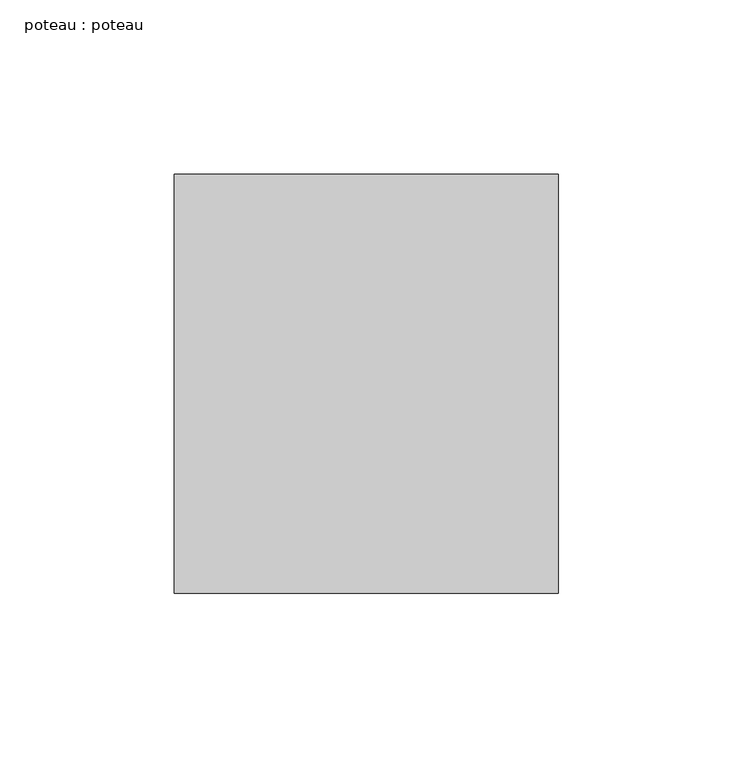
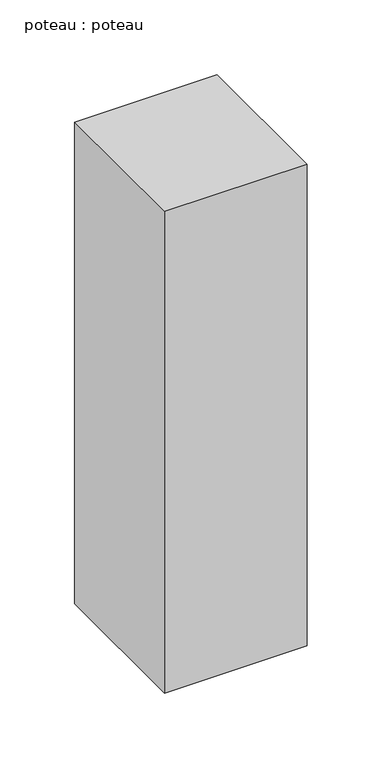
"""IFC4 building model written with IfcOpenShell, lengths in millimetres: column geometry, poteau : poteau."""

import ifcopenshell
import ifcopenshell.guid

model = None  # the IFC model being written
_history = None  # IfcOwnerHistory: only IFC2X3 demands one
_inside = {}  # id of a spatial element -> (the spatial element, [elements in it])
_under = {}  # id of a project, library or spatial element -> (it, [spatial elements below it])
_declared = {}  # id of a project -> (the project, [libraries it declares])
_typed = {}  # id of a type object -> (the type object, [elements of that type])
_made_of = {}  # id of a material, layer set ... -> (it, [elements and type objects made of it])


def new_model(schema):
    """Start an empty IFC model of exactly this schema.

    Asked for "IFC4X3", IfcOpenShell would pick the latest addendum, in which some entities
    have other attributes; the version numbers below select the first issue.
    IFC2X3 requires an IfcOwnerHistory on every rooted entity: one is made here for all.
    """
    global model, _history
    if schema == "IFC4X3":
        model = ifcopenshell.file(schema_version=(4, 3, 0, 0))
    else:
        model = ifcopenshell.file(schema=schema)
    _inside.clear()
    _under.clear()
    _declared.clear()
    _typed.clear()
    _made_of.clear()
    _history = None
    if model.schema == "IFC2X3":
        org = make("IfcOrganization", Name="unknown")
        user = make(
            "IfcPersonAndOrganization",
            ThePerson=make("IfcPerson", FamilyName="unknown"),
            TheOrganization=org,
        )
        app = make(
            "IfcApplication",
            ApplicationDeveloper=org,
            Version="unknown",
            ApplicationFullName="unknown",
            ApplicationIdentifier="unknown",
        )
        _history = make(
            "IfcOwnerHistory",
            OwningUser=user,
            OwningApplication=app,
            ChangeAction="ADDED",
            CreationDate=0,
        )
    return model


def make(cls, **values):
    """One entity of the class cls with the attributes given. An attribute that is None is left unset."""
    return model.create_entity(
        cls, **{name: value for name, value in values.items() if value is not None}
    )


def rooted(cls, **values):
    """An entity with a GlobalId (a new one), such as an element, a storey or a relation."""
    return make(cls, GlobalId=ifcopenshell.guid.new(), OwnerHistory=_history, **values)


def si_unit(unit_type, name, prefix=None):
    """IfcSIUnit, for example si_unit("LENGTHUNIT", "METRE", prefix="MILLI")."""
    return make("IfcSIUnit", UnitType=unit_type, Prefix=prefix, Name=name)


def assignment(units):
    """IfcUnitAssignment: the units of a project."""
    return None if units is None else make("IfcUnitAssignment", Units=units)


def point(xyz):
    """IfcCartesianPoint."""
    return None if xyz is None else make("IfcCartesianPoint", Coordinates=xyz)


def direction(xyz):
    """IfcDirection."""
    return None if xyz is None else make("IfcDirection", DirectionRatios=xyz)


def frame(location, z_axis=None, x_axis=None):
    """IfcAxis2Placement3D, a coordinate frame: its origin and axes. An axis left out is left unset."""
    return make(
        "IfcAxis2Placement3D",
        Location=point(location),
        Axis=direction(z_axis),
        RefDirection=direction(x_axis),
    )


def origin():
    """The frame at (0, 0, 0) with its axes left unset."""
    return frame((0.0, 0.0, 0.0))


def place(relative_to, where):
    """IfcLocalPlacement: puts the frame where relative to a parent placement (None: the world)."""
    return make(
        "IfcLocalPlacement", PlacementRelTo=relative_to, RelativePlacement=where
    )


def context(
    kind, dimensions, precision=None, world=None, true_north=None, identifier=None
):
    """IfcGeometricRepresentationContext, for example the 3D "Model" context."""
    return make(
        "IfcGeometricRepresentationContext",
        ContextIdentifier=identifier,
        ContextType=kind,
        CoordinateSpaceDimension=dimensions,
        Precision=precision,
        WorldCoordinateSystem=world,
        TrueNorth=true_north,
    )


def project(units=None, contexts=None):
    """IfcProject with its units and contexts."""
    return rooted(
        "IfcProject",
        Name="project",
        RepresentationContexts=contexts,
        UnitsInContext=assignment(units),
    )


def spatial(cls, under=None, at=None, **own):
    """A site, building, storey or space (cls), placed at a placement, below another one or the project."""
    s = rooted(cls, ObjectPlacement=at, **own)
    if under is not None:
        _under.setdefault(under.id(), (under, []))[1].append(s)
    return s


def polyline(points):
    """IfcPolyline through the points."""
    return make("IfcPolyline", Points=[point(p) for p in points])


def outline(outer, holes=None, kind="AREA"):
    """IfcArbitraryClosedProfileDef: a profile drawn as a closed curve; with holes, ...WithVoids."""
    if holes is None:
        return make("IfcArbitraryClosedProfileDef", ProfileType=kind, OuterCurve=outer)
    return make(
        "IfcArbitraryProfileDefWithVoids",
        ProfileType=kind,
        OuterCurve=outer,
        InnerCurves=holes,
    )


def extrude(swept, where, along, depth):
    """IfcExtrudedAreaSolid: the profile swept, set in the frame where, extruded along a direction by depth."""
    return make(
        "IfcExtrudedAreaSolid",
        SweptArea=swept,
        Position=where,
        ExtrudedDirection=direction(along),
        Depth=depth,
    )


def shape(context_of_items, identifier, shape_type, items):
    """IfcShapeRepresentation: the items that make up one representation, for example the "Body"."""
    return make(
        "IfcShapeRepresentation",
        ContextOfItems=context_of_items,
        RepresentationIdentifier=identifier,
        RepresentationType=shape_type,
        Items=items,
    )


def source(mapping_origin, context_of_items, identifier, shape_type, items):
    """IfcRepresentationMap: a shape defined once, which mapped items show again and again."""
    return make(
        "IfcRepresentationMap",
        MappingOrigin=mapping_origin,
        MappedRepresentation=shape(context_of_items, identifier, shape_type, items),
    )


def transform(
    local_origin,
    x_axis=None,
    y_axis=None,
    z_axis=None,
    scale=None,
    scale2=None,
    scale3=None,
    uniform=True,
):
    """IfcCartesianTransformationOperator3D, or its non-uniform kind. x_axis, y_axis, z_axis: its Axis1, 2, 3."""
    if uniform:
        return make(
            "IfcCartesianTransformationOperator3D",
            Axis1=direction(x_axis),
            Axis2=direction(y_axis),
            LocalOrigin=point(local_origin),
            Scale=scale,
            Axis3=direction(z_axis),
        )
    return make(
        "IfcCartesianTransformationOperator3DnonUniform",
        Axis1=direction(x_axis),
        Axis2=direction(y_axis),
        LocalOrigin=point(local_origin),
        Scale=scale,
        Axis3=direction(z_axis),
        Scale2=scale2,
        Scale3=scale3,
    )


def mapped(mapping_source, mapping_target):
    """IfcMappedItem: shows the shape of a source again, moved by a transform."""
    return make(
        "IfcMappedItem", MappingSource=mapping_source, MappingTarget=mapping_target
    )


def made_of(thing, what):
    """Note that an element or type object is made of a material, layer set ...; save() writes the relation."""
    if what is not None:
        _made_of.setdefault(what.id(), (what, []))[1].append(thing)
    return thing


def element(
    cls,
    number,
    at=None,
    inside=None,
    cuts=None,
    type_object=None,
    material=None,
    context=None,
    identifier="Body",
    shape_type=None,
    held_by="IfcProductDefinitionShape",
    body=None,
    shapes=None,
    **own,
):
    """One element of the class cls, such as IfcWall. Its Tag is "e" and its number.

    at: its placement. inside: the storey or other place that contains it. cuts: it is an
    opening in that element (IfcRelVoidsElement). A single representation is given by context,
    identifier, shape_type and body (its items); several are given by shapes. held_by: the class
    of the entity that holds the representations. save() writes the other relations.
    """
    e = rooted(cls, Tag="e%d" % number, ObjectPlacement=at, **own)
    if body is not None:
        shapes = [shape(context, identifier, shape_type, body)]
    if shapes is not None:
        e.Representation = make(held_by, Representations=shapes)
    if inside is not None:
        _inside.setdefault(inside.id(), (inside, []))[1].append(e)
    if cuts is not None:
        rooted(
            "IfcRelVoidsElement", RelatingBuildingElement=cuts, RelatedOpeningElement=e
        )
    if type_object is not None:
        _typed.setdefault(type_object.id(), (type_object, []))[1].append(e)
    return made_of(e, material)


def aggregate(whole, parts):
    """IfcRelAggregates: a whole, such as a stair, and the parts it consists of."""
    return rooted("IfcRelAggregates", RelatingObject=whole, RelatedObjects=parts)


def save(model, path):
    """Write the relations noted so far, then the file.

    IfcRelAggregates (storeys below a building ...), IfcRelContainedInSpatialStructure (elements
    in a storey), IfcRelDefinesByType, IfcRelAssociatesMaterial and IfcRelDeclares: one each for
    every whole, place, type object, material and project.
    """
    for whole, parts in _under.values():
        aggregate(whole, parts)
    for where, things in _inside.values():
        rooted(
            "IfcRelContainedInSpatialStructure",
            RelatedElements=things,
            RelatingStructure=where,
        )
    for kind, things in _typed.values():
        rooted("IfcRelDefinesByType", RelatedObjects=things, RelatingType=kind)
    for what, things in _made_of.values():
        rooted("IfcRelAssociatesMaterial", RelatedObjects=things, RelatingMaterial=what)
    for by, libraries in _declared.values():
        rooted("IfcRelDeclares", RelatingContext=by, RelatedDefinitions=libraries)
    model.write(path)


def poteau_poteau_c7b6cf4e(model_context):
    return source(origin(), model_context, "Body", "SweptSolid", [
        extrude(outline(polyline([(251.6350538, -15755.2420435), (141.6350538, -15755.2420435), (141.6350538, -15635.2420435), (251.6350538, -15635.2420435), (251.6350538, -15755.2420435)])), frame((0.0, 0.0, 10411.6415257), z_axis=(0.0, 0.0, 1.0), x_axis=(1.0, 0.0, 0.0)), (0.0, 0.0, 1.0), 393.1),
    ])


if __name__ == "__main__":
    model = new_model("IFC4")
    model_context = context("Model", 3, world=origin())
    ifc_project = project(units=[si_unit("LENGTHUNIT", "METRE", prefix="MILLI")], contexts=[model_context])
    site = spatial("IfcSite", under=ifc_project)
    building = spatial("IfcBuilding", under=site)
    placement = place(None, origin())
    poteau_poteau_shape = poteau_poteau_c7b6cf4e(model_context)
    element("IfcColumn", 1, ObjectType="poteau : poteau", at=placement, inside=building, context=model_context, shape_type="MappedRepresentation", body=[
        mapped(poteau_poteau_shape, transform((0.0, 0.0, 0.0), x_axis=(1.0, 0.0, 0.0), y_axis=(0.0, 1.0, 0.0), z_axis=(0.0, 0.0, 1.0))),
    ])
    save(model, "model.ifc")
